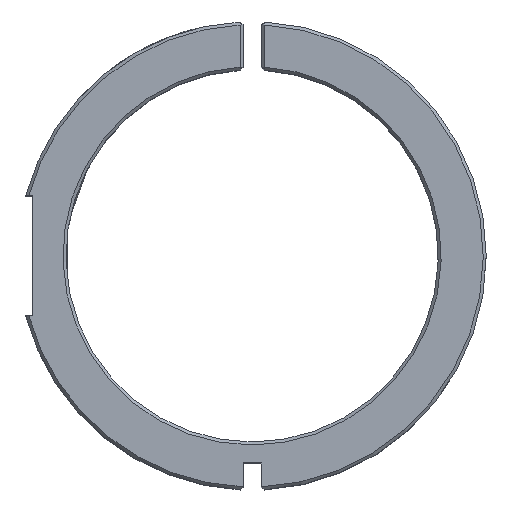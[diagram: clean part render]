
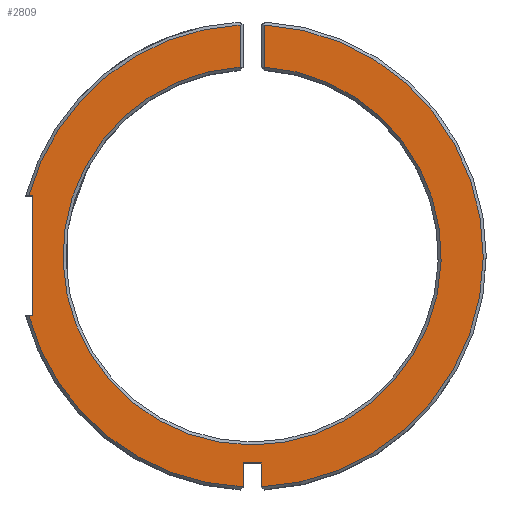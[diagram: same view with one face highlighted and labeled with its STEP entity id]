
A CAD part, top view. The second image highlights one B-rep face of the part: STEP entity #2809.
In plain terms, the highlighted planar face has unit normal (0, 0, 1).
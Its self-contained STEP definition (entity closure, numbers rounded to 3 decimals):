
#1416=CARTESIAN_POINT('',(38.,-28.471,0.0));
#1417=VERTEX_POINT('',#1416);
#1424=CARTESIAN_POINT('',(38.,-24.5,0.0));
#1425=VERTEX_POINT('',#1424);
#1426=CARTESIAN_POINT('',(38.,-24.5,0.0));
#1427=DIRECTION('',(0.0,-1.0,0.0));
#1428=VECTOR('',#1427,3.971);
#1429=LINE('',#1426,#1428);
#1430=EDGE_CURVE('',#1425,#1417,#1429,.T.);
#1510=CARTESIAN_POINT('',(35.,-28.471,0.0));
#1511=VERTEX_POINT('',#1510);
#1518=CARTESIAN_POINT('',(-0.679,0.0,0.0));
#1519=VERTEX_POINT('',#1518);
#1520=CARTESIAN_POINT('',(36.5,10.0,0.0));
#1521=DIRECTION('',(0.0,0.0,-1.0));
#1522=DIRECTION('',(0.967,0.256,0.0));
#1523=AXIS2_PLACEMENT_3D('',#1520,#1521,#1522);
#1524=CIRCLE('',#1523,38.5);
#1525=EDGE_CURVE('',#1511,#1519,#1524,.T.);
#1574=CARTESIAN_POINT('',(35.,-24.5,0.0));
#1575=VERTEX_POINT('',#1574);
#1582=CARTESIAN_POINT('',(35.,-28.471,0.0));
#1583=DIRECTION('',(0.0,1.0,0.0));
#1584=VECTOR('',#1583,3.971);
#1585=LINE('',#1582,#1584);
#1586=EDGE_CURVE('',#1511,#1575,#1585,.T.);
#1597=CARTESIAN_POINT('',(35.,-24.5,0.0));
#1598=DIRECTION('',(1.0,0.0,0.0));
#1599=VECTOR('',#1598,3.);
#1600=LINE('',#1597,#1599);
#1601=EDGE_CURVE('',#1575,#1425,#1600,.T.);
#1628=CARTESIAN_POINT('',(38.5,48.448,0.0));
#1629=VERTEX_POINT('',#1628);
#1639=CARTESIAN_POINT('',(36.5,10.0,0.0));
#1640=DIRECTION('',(0.0,0.0,-1.0));
#1641=DIRECTION('',(0.967,0.256,0.0));
#1642=AXIS2_PLACEMENT_3D('',#1639,#1640,#1641);
#1643=CIRCLE('',#1642,38.5);
#1644=EDGE_CURVE('',#1629,#1417,#1643,.T.);
#2095=CARTESIAN_POINT('',(34.5,41.436,0.0));
#2096=VERTEX_POINT('',#2095);
#2210=CARTESIAN_POINT('',(38.5,41.436,0.0));
#2211=VERTEX_POINT('',#2210);
#2343=CARTESIAN_POINT('',(38.5,41.436,0.0));
#2344=DIRECTION('',(0.0,1.0,0.0));
#2345=VECTOR('',#2344,7.012);
#2346=LINE('',#2343,#2345);
#2347=EDGE_CURVE('',#2211,#1629,#2346,.T.);
#2429=CARTESIAN_POINT('',(36.5,10.0,0.0));
#2430=DIRECTION('',(0.0,0.0,1.0));
#2431=DIRECTION('',(-1.0,0.0,0.0));
#2432=AXIS2_PLACEMENT_3D('',#2429,#2430,#2431);
#2433=CIRCLE('',#2432,31.5);
#2434=EDGE_CURVE('',#2096,#2211,#2433,.T.);
#2589=CARTESIAN_POINT('',(34.5,48.448,0.0));
#2590=VERTEX_POINT('',#2589);
#2618=CARTESIAN_POINT('',(34.5,48.448,0.0));
#2619=DIRECTION('',(0.0,-1.0,0.0));
#2620=VECTOR('',#2619,7.012);
#2621=LINE('',#2618,#2620);
#2622=EDGE_CURVE('',#2590,#2096,#2621,.T.);
#2666=CARTESIAN_POINT('',(-0.679,20.0,0.0));
#2667=VERTEX_POINT('',#2666);
#2681=CARTESIAN_POINT('',(36.5,10.0,0.0));
#2682=DIRECTION('',(0.0,0.0,-1.0));
#2683=DIRECTION('',(-0.038,0.999,0.0));
#2684=AXIS2_PLACEMENT_3D('',#2681,#2682,#2683);
#2685=CIRCLE('',#2684,38.5);
#2686=EDGE_CURVE('',#2667,#2590,#2685,.T.);
#2758=CARTESIAN_POINT('',(0.0,0.0,0.0));
#2759=VERTEX_POINT('',#2758);
#2760=CARTESIAN_POINT('',(0.0,0.0,0.0));
#2761=DIRECTION('',(-1.0,0.0,0.0));
#2762=VECTOR('',#2761,0.679);
#2763=LINE('',#2760,#2762);
#2764=EDGE_CURVE('',#2759,#1519,#2763,.T.);
#2778=CARTESIAN_POINT('',(35.375,12.809,0.0));
#2779=DIRECTION('',(0.0,0.0,1.0));
#2780=DIRECTION('',(1.0,0.0,0.0));
#2781=AXIS2_PLACEMENT_3D('',#2778,#2779,#2780);
#2782=PLANE('',#2781);
#2783=ORIENTED_EDGE('',*,*,#1430,.T.);
#2784=ORIENTED_EDGE('',*,*,#1644,.F.);
#2785=ORIENTED_EDGE('',*,*,#2347,.F.);
#2786=ORIENTED_EDGE('',*,*,#2434,.F.);
#2787=ORIENTED_EDGE('',*,*,#2622,.F.);
#2788=ORIENTED_EDGE('',*,*,#2686,.F.);
#2789=CARTESIAN_POINT('',(0.0,20.0,0.0));
#2790=VERTEX_POINT('',#2789);
#2791=CARTESIAN_POINT('',(-0.679,20.0,0.0));
#2792=DIRECTION('',(1.0,0.0,0.0));
#2793=VECTOR('',#2792,0.679);
#2794=LINE('',#2791,#2793);
#2795=EDGE_CURVE('',#2667,#2790,#2794,.T.);
#2796=ORIENTED_EDGE('',*,*,#2795,.T.);
#2797=CARTESIAN_POINT('',(0.0,20.0,0.0));
#2798=DIRECTION('',(0.0,-1.0,0.0));
#2799=VECTOR('',#2798,20.0);
#2800=LINE('',#2797,#2799);
#2801=EDGE_CURVE('',#2790,#2759,#2800,.T.);
#2802=ORIENTED_EDGE('',*,*,#2801,.T.);
#2803=ORIENTED_EDGE('',*,*,#2764,.T.);
#2804=ORIENTED_EDGE('',*,*,#1525,.F.);
#2805=ORIENTED_EDGE('',*,*,#1586,.T.);
#2806=ORIENTED_EDGE('',*,*,#1601,.T.);
#2807=EDGE_LOOP('',(#2783,#2784,#2785,#2786,#2787,#2788,#2796,#2802,#2803,#2804,#2805,#2806));
#2808=FACE_OUTER_BOUND('',#2807,.T.);
#2809=ADVANCED_FACE('',(#2808),#2782,.T.);
